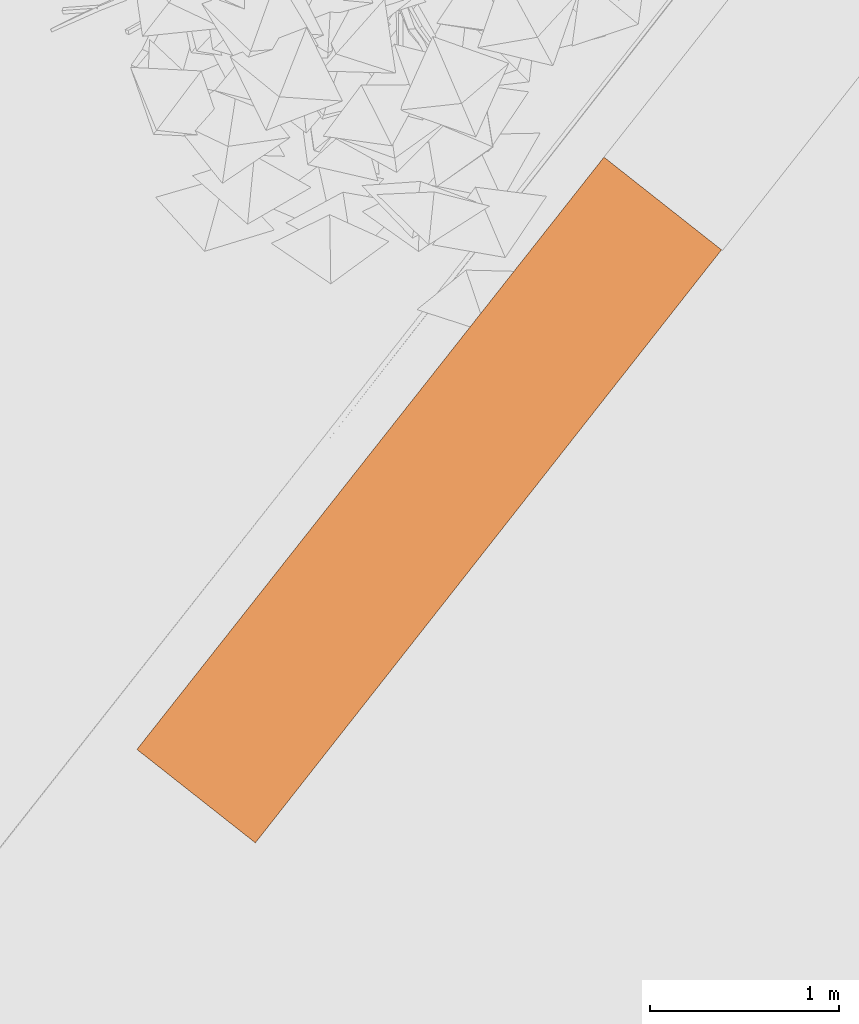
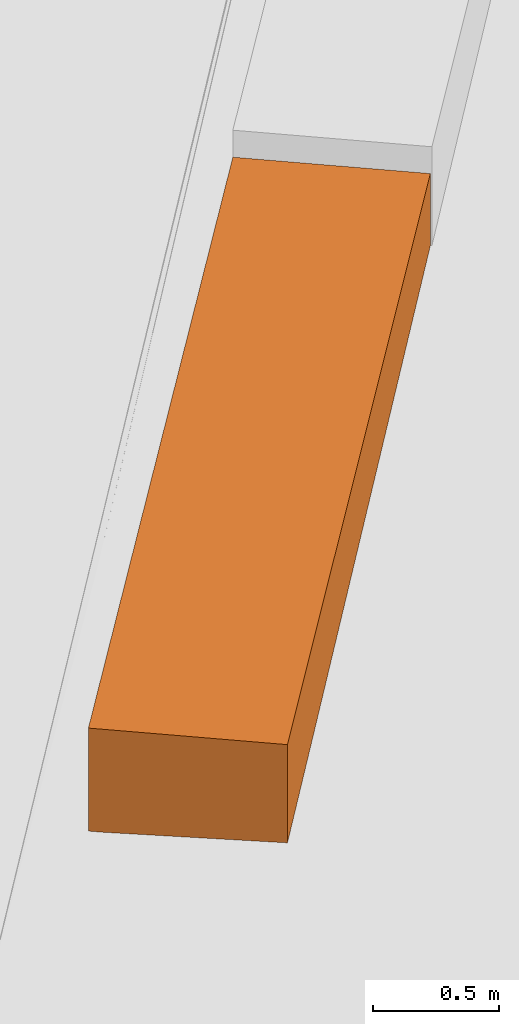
# One storey, part 52 of 69: 1 proxy.
"""IFC2X3 building model written with IfcOpenShell, lengths in millimetres."""

import ifcopenshell
import ifcopenshell.guid

model = None  # the IFC model being written
_history = None  # IfcOwnerHistory: only IFC2X3 demands one
_inside = {}  # id of a spatial element -> (the spatial element, [elements in it])
_under = {}  # id of a project, library or spatial element -> (it, [spatial elements below it])
_declared = {}  # id of a project -> (the project, [libraries it declares])
_typed = {}  # id of a type object -> (the type object, [elements of that type])
_made_of = {}  # id of a material, layer set ... -> (it, [elements and type objects made of it])


def new_model(schema):
    """Start an empty IFC model of exactly this schema.

    Asked for "IFC4X3", IfcOpenShell would pick the latest addendum, in which some entities
    have other attributes; the version numbers below select the first issue.
    IFC2X3 requires an IfcOwnerHistory on every rooted entity: one is made here for all.
    """
    global model, _history
    if schema == "IFC4X3":
        model = ifcopenshell.file(schema_version=(4, 3, 0, 0))
    else:
        model = ifcopenshell.file(schema=schema)
    _inside.clear()
    _under.clear()
    _declared.clear()
    _typed.clear()
    _made_of.clear()
    _history = None
    if model.schema == "IFC2X3":
        org = make("IfcOrganization", Name="unknown")
        user = make(
            "IfcPersonAndOrganization",
            ThePerson=make("IfcPerson", FamilyName="unknown"),
            TheOrganization=org,
        )
        app = make(
            "IfcApplication",
            ApplicationDeveloper=org,
            Version="unknown",
            ApplicationFullName="unknown",
            ApplicationIdentifier="unknown",
        )
        _history = make(
            "IfcOwnerHistory",
            OwningUser=user,
            OwningApplication=app,
            ChangeAction="ADDED",
            CreationDate=0,
        )
    return model


def make(cls, **values):
    """One entity of the class cls with the attributes given. An attribute that is None is left unset."""
    return model.create_entity(
        cls, **{name: value for name, value in values.items() if value is not None}
    )


def entity(cls, *values):
    """Any entity or typed value of the class cls, its attributes in the order of the schema. None: left unset."""
    e = model.create_entity(cls)
    for i, value in enumerate(values):
        if value is not None:
            e[i] = value
    return e


def rooted(cls, **values):
    """An entity with a GlobalId (a new one), such as an element, a storey or a relation."""
    return make(cls, GlobalId=ifcopenshell.guid.new(), OwnerHistory=_history, **values)


def si_unit(unit_type, name, prefix=None):
    """IfcSIUnit, for example si_unit("LENGTHUNIT", "METRE", prefix="MILLI")."""
    return make("IfcSIUnit", UnitType=unit_type, Prefix=prefix, Name=name)


def converted_unit(unit_type, name, factor, base, dimensions=None, offset=None):
    """IfcConversionBasedUnit, such as the inch: factor (a typed value) times the base unit."""
    return make(
        "IfcConversionBasedUnit"
        if offset is None
        else "IfcConversionBasedUnitWithOffset",
        ConversionOffset=offset,
        Dimensions=None
        if dimensions is None
        else entity("IfcDimensionalExponents", *dimensions),
        UnitType=unit_type,
        Name=name,
        ConversionFactor=make(
            "IfcMeasureWithUnit", ValueComponent=factor, UnitComponent=base
        ),
    )


def derived_unit(unit_type, elements):
    """IfcDerivedUnit: a product of units, each with its exponent."""
    return make(
        "IfcDerivedUnit",
        Elements=[
            make("IfcDerivedUnitElement", Unit=unit, Exponent=power)
            for unit, power in elements
        ],
        UnitType=unit_type,
    )


def money_unit(currency):
    """IfcMonetaryUnit."""
    return make("IfcMonetaryUnit", Currency=currency)


def assignment(units):
    """IfcUnitAssignment: the units of a project."""
    return None if units is None else make("IfcUnitAssignment", Units=units)


def point(xyz):
    """IfcCartesianPoint."""
    return None if xyz is None else make("IfcCartesianPoint", Coordinates=xyz)


def direction(xyz):
    """IfcDirection."""
    return None if xyz is None else make("IfcDirection", DirectionRatios=xyz)


def frame(location, z_axis=None, x_axis=None):
    """IfcAxis2Placement3D, a coordinate frame: its origin and axes. An axis left out is left unset."""
    return make(
        "IfcAxis2Placement3D",
        Location=point(location),
        Axis=direction(z_axis),
        RefDirection=direction(x_axis),
    )


def origin_with_axes():
    """The frame at (0, 0, 0) with the z axis (0, 0, 1) and the x axis (1, 0, 0) written out."""
    return frame((0.0, 0.0, 0.0), z_axis=(0.0, 0.0, 1.0), x_axis=(1.0, 0.0, 0.0))


def place(relative_to, where):
    """IfcLocalPlacement: puts the frame where relative to a parent placement (None: the world)."""
    return make(
        "IfcLocalPlacement", PlacementRelTo=relative_to, RelativePlacement=where
    )


def context(
    kind, dimensions, precision=None, world=None, true_north=None, identifier=None
):
    """IfcGeometricRepresentationContext, for example the 3D "Model" context."""
    return make(
        "IfcGeometricRepresentationContext",
        ContextIdentifier=identifier,
        ContextType=kind,
        CoordinateSpaceDimension=dimensions,
        Precision=precision,
        WorldCoordinateSystem=world,
        TrueNorth=true_north,
    )


def subcontext(parent, identifier, kind, view, scale=None):
    """IfcGeometricRepresentationSubContext, for example "Body" below "Model"."""
    return make(
        "IfcGeometricRepresentationSubContext",
        ContextIdentifier=identifier,
        ContextType=kind,
        ParentContext=parent,
        TargetScale=scale,
        TargetView=view,
    )


def project(units=None, contexts=None):
    """IfcProject with its units and contexts."""
    return rooted(
        "IfcProject",
        Name="project",
        RepresentationContexts=contexts,
        UnitsInContext=assignment(units),
    )


def spatial(cls, under=None, at=None, **own):
    """A site, building, storey or space (cls), placed at a placement, below another one or the project."""
    s = rooted(cls, ObjectPlacement=at, **own)
    if under is not None:
        _under.setdefault(under.id(), (under, []))[1].append(s)
    return s


def faces_of(points, faces, orient=None, outer=None):
    """IfcFace entities. A face is a list of loops; a loop is a list of indices into points, from 0.

    orient and outer hold one flag for each loop. By default every Orientation is true, the
    first loop of a face is its IfcFaceOuterBound and the others are IfcFaceBound.
    """
    made = []
    for i, loops in enumerate(faces):
        bounds = []
        for j, loop in enumerate(loops):
            is_outer = j == 0 if outer is None else outer[i][j]
            bounds.append(
                make(
                    "IfcFaceOuterBound" if is_outer else "IfcFaceBound",
                    Bound=make("IfcPolyLoop", Polygon=[points[k] for k in loop]),
                    Orientation=True if orient is None else orient[i][j],
                )
            )
        made.append(make("IfcFace", Bounds=bounds))
    return made


def faceted_brep(points, faces, orient=None, outer=None, voids=None):
    """IfcFacetedBrep: a solid bounded by flat faces; with voids (closed shells), ...WithVoids."""
    shared = [point(p) for p in points]
    hull = make("IfcClosedShell", CfsFaces=faces_of(shared, faces, orient, outer))
    if voids is None:
        return make("IfcFacetedBrep", Outer=hull)
    return make(
        "IfcFacetedBrepWithVoids",
        Outer=hull,
        Voids=[
            make(cls, CfsFaces=faces_of(shared, fs, o, b)) for cls, fs, o, b in voids
        ],
    )


def shape(context_of_items, identifier, shape_type, items):
    """IfcShapeRepresentation: the items that make up one representation, for example the "Body"."""
    return make(
        "IfcShapeRepresentation",
        ContextOfItems=context_of_items,
        RepresentationIdentifier=identifier,
        RepresentationType=shape_type,
        Items=items,
    )


def material(Name=None, Category=None):
    """IfcMaterial."""
    return make("IfcMaterial", Name=Name, Category=Category)


def made_of(thing, what):
    """Note that an element or type object is made of a material, layer set ...; save() writes the relation."""
    if what is not None:
        _made_of.setdefault(what.id(), (what, []))[1].append(thing)
    return thing


def type_object(cls, material=None, **own):
    """A type object (cls), such as IfcWallType, which elements share."""
    return made_of(rooted(cls, **own), material)


def element(
    cls,
    number,
    at=None,
    inside=None,
    cuts=None,
    type_object=None,
    material=None,
    context=None,
    identifier="Body",
    shape_type=None,
    held_by="IfcProductDefinitionShape",
    body=None,
    shapes=None,
    **own,
):
    """One element of the class cls, such as IfcWall. Its Tag is "e" and its number.

    at: its placement. inside: the storey or other place that contains it. cuts: it is an
    opening in that element (IfcRelVoidsElement). A single representation is given by context,
    identifier, shape_type and body (its items); several are given by shapes. held_by: the class
    of the entity that holds the representations. save() writes the other relations.
    """
    e = rooted(cls, Tag="e%d" % number, ObjectPlacement=at, **own)
    if body is not None:
        shapes = [shape(context, identifier, shape_type, body)]
    if shapes is not None:
        e.Representation = make(held_by, Representations=shapes)
    if inside is not None:
        _inside.setdefault(inside.id(), (inside, []))[1].append(e)
    if cuts is not None:
        rooted(
            "IfcRelVoidsElement", RelatingBuildingElement=cuts, RelatedOpeningElement=e
        )
    if type_object is not None:
        _typed.setdefault(type_object.id(), (type_object, []))[1].append(e)
    return made_of(e, material)


def aggregate(whole, parts):
    """IfcRelAggregates: a whole, such as a stair, and the parts it consists of."""
    return rooted("IfcRelAggregates", RelatingObject=whole, RelatedObjects=parts)


def save(model, path):
    """Write the relations noted so far, then the file.

    IfcRelAggregates (storeys below a building ...), IfcRelContainedInSpatialStructure (elements
    in a storey), IfcRelDefinesByType, IfcRelAssociatesMaterial and IfcRelDeclares: one each for
    every whole, place, type object, material and project.
    """
    for whole, parts in _under.values():
        aggregate(whole, parts)
    for where, things in _inside.values():
        rooted(
            "IfcRelContainedInSpatialStructure",
            RelatedElements=things,
            RelatingStructure=where,
        )
    for kind, things in _typed.values():
        rooted("IfcRelDefinesByType", RelatedObjects=things, RelatingType=kind)
    for what, things in _made_of.values():
        rooted("IfcRelAssociatesMaterial", RelatedObjects=things, RelatingMaterial=what)
    for by, libraries in _declared.values():
        rooted("IfcRelDeclares", RelatingContext=by, RelatedDefinitions=libraries)
    model.write(path)


model = new_model("IFC2X3")

# Units and contexts
model_context = context("Model", 3, precision=0.01, world=origin_with_axes(), true_north=direction((0.0, 1.0)))
body_context = subcontext(model_context, "Body", "Model", "MODEL_VIEW")
ifc_project = project(units=[si_unit("LENGTHUNIT", "METRE", prefix="MILLI"), si_unit("AREAUNIT", "SQUARE_METRE"), si_unit("VOLUMEUNIT", "CUBIC_METRE"), converted_unit("PLANEANGLEUNIT", "DEGREE", entity("IfcPlaneAngleMeasure", 0.0174532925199), si_unit("PLANEANGLEUNIT", "RADIAN"), dimensions=[0, 0, 0, 0, 0, 0, 0]), si_unit("SOLIDANGLEUNIT", "STERADIAN"), money_unit("EUR"), converted_unit("TIMEUNIT", "Year", entity("IfcTimeMeasure", 31556926.0), si_unit("TIMEUNIT", "SECOND"), dimensions=[0, 0, 1, 0, 0, 0, 0]), si_unit("MASSUNIT", "GRAM", prefix="KILO"), si_unit("THERMODYNAMICTEMPERATUREUNIT", "DEGREE_CELSIUS"), si_unit("LUMINOUSINTENSITYUNIT", "LUMEN"), si_unit("ENERGYUNIT", "JOULE", prefix="MEGA"), derived_unit("THERMALCONDUCTANCEUNIT", [(si_unit("POWERUNIT", "WATT"), 1), (si_unit("LENGTHUNIT", "METRE"), -1), (si_unit("THERMODYNAMICTEMPERATUREUNIT", "KELVIN"), -1)]), derived_unit("SPECIFICHEATCAPACITYUNIT", [(si_unit("ENERGYUNIT", "JOULE"), 1), (si_unit("MASSUNIT", "GRAM", prefix="KILO"), -1), (si_unit("THERMODYNAMICTEMPERATUREUNIT", "KELVIN"), -1)]), derived_unit("MASSDENSITYUNIT", [(si_unit("MASSUNIT", "GRAM", prefix="KILO"), 1), (si_unit("VOLUMEUNIT", "CUBIC_METRE"), -1)])], contexts=[model_context])

# Site, building, storey
site_placement = place(None, origin_with_axes())
site = spatial("IfcSite", under=ifc_project, at=site_placement, Name="Puškini 31, Narva", CompositionType="ELEMENT")
building_placement = place(site_placement, origin_with_axes())
building = spatial("IfcBuilding", under=site, at=building_placement, Name="Narva Riigigümnaasium", CompositionType="ELEMENT")
storey_placement = place(building_placement, origin_with_axes())
storey = spatial("IfcBuildingStorey", under=building, at=storey_placement, Name="1.korrus 0.00", CompositionType="ELEMENT", Elevation=0.0)

# Proxy
ifc_material = material(Name="Puit - Põrand")
building_element_proxy_type = type_object("IfcBuildingElementProxyType", Name="Puit - Põrand 500", PredefinedType="NOTDEFINED")
proxy_placement = place(storey_placement, frame((6454.26874889, 154165.646224, -44.2045394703), z_axis=(0.0, 0.0, 1.0), x_axis=(1.0, 0.0, 0.0)))
element("IfcBuildingElementProxy", 1, at=proxy_placement, inside=storey, type_object=building_element_proxy_type, material=ifc_material, Name="Pink-2", context=body_context, shape_type="Brep", body=[
    faceted_brep([(-1408.71395668, -3076.76744716, -455.79546053), (503.054392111, -644.571891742, -355.795460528), (623.345299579, -491.535039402, -349.503332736), (623.345299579, -491.535039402, 0.0), (-1848.54354883, -3636.32874539, 0.0), (-1848.54354883, -3636.32874539, -476.772058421), (-1513.52659706, -1919.44190576, -455.79546053), (0.0, 0.0, -376.652445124), (478.877656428, -377.615982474, -355.795460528), (0.0, 0.0, 0.0), (-2476.73970958, -3140.98080434, 0.0), (-2433.46436953, -3175.10446177, -500.0), (-2476.73970958, -3140.98080434, -500.0), (-2440.69465205, -3095.26876066, -500.0)], [[[0, 1, 2, 3, 4, 5]], [[1, 0, 6, 7, 8]], [[8, 2, 1]], [[8, 7, 9, 3, 2]], [[3, 9, 10, 4]], [[11, 5, 4, 10, 12]], [[0, 5, 11, 13, 6]], [[6, 13, 12, 10, 9, 7]], [[13, 11, 12]]]),
])

save(model, "model.ifc")
